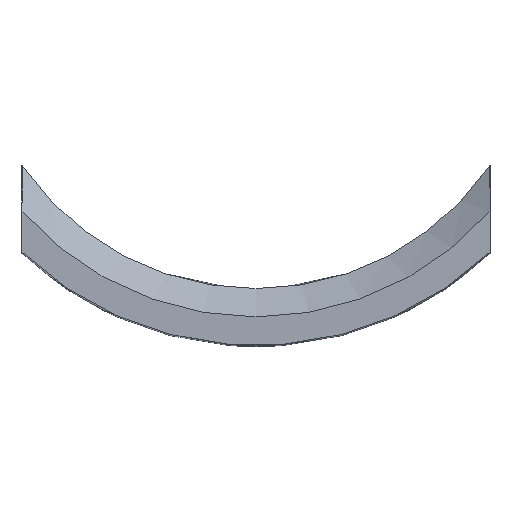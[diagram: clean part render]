
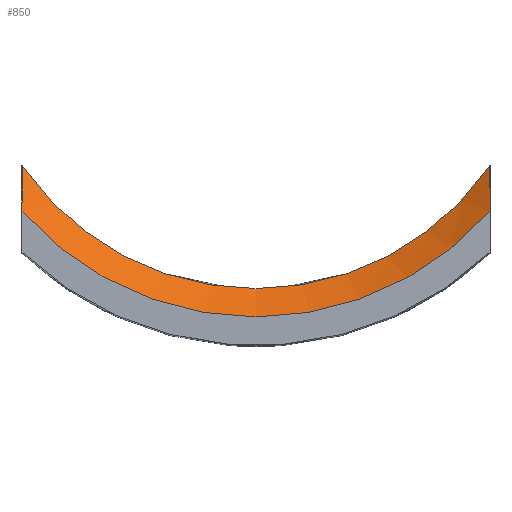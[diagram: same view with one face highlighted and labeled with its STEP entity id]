
A CAD part, top view. The second image highlights one B-rep face of the part: STEP entity #850.
In plain terms, the highlighted conical face has half-angle 45 degrees and reference radius 31.75 mm.
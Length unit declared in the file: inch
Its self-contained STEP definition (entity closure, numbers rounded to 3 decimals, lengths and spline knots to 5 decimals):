
#54 = CARTESIAN_POINT ( 'NONE',  ( 1.03, -0.70824, 3. ) ) ;
#70 = ORIENTED_EDGE ( 'NONE', *, *, #397, .F. ) ;
#74 = FACE_OUTER_BOUND ( 'NONE', #142, .T. ) ;
#85 = CARTESIAN_POINT ( 'NONE',  ( 1.03, -0.70824, 3. ) ) ;
#88 = CARTESIAN_POINT ( 'NONE',  ( -1.03, -0.91089, 3.125 ) ) ;
#93 = DIRECTION ( 'NONE',  ( 0., 0., -1. ) ) ;
#142 = EDGE_LOOP ( 'NONE', ( #70, #781, #247, #727 ) ) ;
#177 = VERTEX_POINT ( 'NONE', #54 ) ;
#196 = AXIS2_PLACEMENT_3D ( 'NONE', #232, #707, #242 ) ;
#216 = CARTESIAN_POINT ( 'NONE',  ( -1.03, -0.84469, 3.08114 ) ) ;
#232 = CARTESIAN_POINT ( 'NONE',  ( 0., 0., 3. ) ) ;
#242 = DIRECTION ( 'NONE',  ( 1., 0., 0. ) ) ;
#247 = ORIENTED_EDGE ( 'NONE', *, *, #868, .F. ) ;
#256 = CIRCLE ( 'NONE', #866, 1.25 ) ;
#297 = CONICAL_SURFACE ( 'NONE', #196, 1.25, 0.785 ) ;
#312 = DIRECTION ( 'NONE',  ( 1., 0., 0. ) ) ;
#336 = AXIS2_PLACEMENT_3D ( 'NONE', #492, #93, #561 ) ;
#339 = VERTEX_POINT ( 'NONE', #859 ) ;
#345 = CARTESIAN_POINT ( 'NONE',  ( -1.03, -0.70824, 3. ) ) ;
#383 = CIRCLE ( 'NONE', #336, 1.375 ) ;
#397 = EDGE_CURVE ( 'NONE', #465, #644, #789, .T. ) ;
#398 = CARTESIAN_POINT ( 'NONE',  ( -1.03, -0.77734, 3.03915 ) ) ;
#410 = EDGE_CURVE ( 'NONE', #339, #465, #383, .T. ) ;
#415 = CARTESIAN_POINT ( 'NONE',  ( 1.03, -0.84469, 3.08114 ) ) ;
#462 = CARTESIAN_POINT ( 'NONE',  ( -1.03, -0.70824, 3. ) ) ;
#465 = VERTEX_POINT ( 'NONE', #88 ) ;
#487 = CARTESIAN_POINT ( 'NONE',  ( 1.03, -0.77734, 3.03915 ) ) ;
#492 = CARTESIAN_POINT ( 'NONE',  ( 0., 0., 3.125 ) ) ;
#512 = CARTESIAN_POINT ( 'NONE',  ( 0., 0., 3. ) ) ;
#561 = DIRECTION ( 'NONE',  ( 1., 0., 0. ) ) ;
#589 = EDGE_CURVE ( 'NONE', #644, #177, #256, .T. ) ;
#644 = VERTEX_POINT ( 'NONE', #462 ) ;
#666 = CARTESIAN_POINT ( 'NONE',  ( -1.03, -0.91089, 3.125 ) ) ;
#707 = DIRECTION ( 'NONE',  ( 0., 0., 1. ) ) ;
#717 = DIRECTION ( 'NONE',  ( 0., 0., 1. ) ) ;
#725 = B_SPLINE_CURVE_WITH_KNOTS ( 'NONE', 3,
 ( #85, #487, #415, #810 ),
 .UNSPECIFIED., .F., .F.,
 ( 4, 4 ),
 ( 0., 0.00605 ),
 .UNSPECIFIED. ) ;
#727 = ORIENTED_EDGE ( 'NONE', *, *, #589, .F. ) ;
#781 = ORIENTED_EDGE ( 'NONE', *, *, #410, .F. ) ;
#789 = B_SPLINE_CURVE_WITH_KNOTS ( 'NONE', 3,
 ( #666, #216, #398, #345 ),
 .UNSPECIFIED., .F., .F.,
 ( 4, 4 ),
 ( 0., 0.00605 ),
 .UNSPECIFIED. ) ;
#810 = CARTESIAN_POINT ( 'NONE',  ( 1.03, -0.91089, 3.125 ) ) ;
#850 = ADVANCED_FACE ( 'NONE', ( #74 ), #297, .F. ) ;
#859 = CARTESIAN_POINT ( 'NONE',  ( 1.03, -0.91089, 3.125 ) ) ;
#866 = AXIS2_PLACEMENT_3D ( 'NONE', #512, #717, #312 ) ;
#868 = EDGE_CURVE ( 'NONE', #177, #339, #725, .T. ) ;
